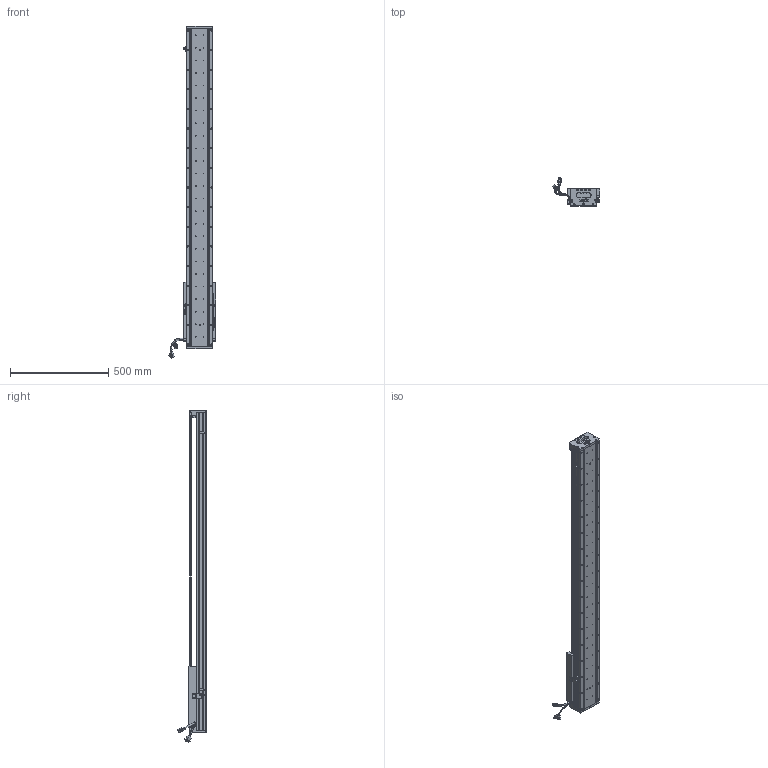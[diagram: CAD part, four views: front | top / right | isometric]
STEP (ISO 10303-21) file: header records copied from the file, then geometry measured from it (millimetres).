
FILE_DESCRIPTION (( 'STEP AP203' ), '1' );
FILE_NAME ('Z4-RY140D-1-L500-B-K.SLDASM_1250.step', '2021-05-17T08:16:07', ( '盈信电脑' ), ( '东莞市道滘镇水果街19号' ), 'SwSTEP 2.0', 'SolidWorks 2016', '' );
FILE_SCHEMA (( 'CONFIG_CONTROL_DESIGN' ));
Length unit declared in the file: millimetre
Products named in the file (36): Z4-RY140-L500直线电机模组底座_1250; 詩湍奻揤裔; SEAL-Part-1; Z-RY140感应器672光电感应片; Z4-RY140圉猾敕臏賑輸(21遴); SEAL; PSLH080_PSLF2; 140雄赽晤鎢ん堤盄; 080黍杅芛假蚾釱21遴; HARNESS; SCALE-Part-1; SCALE-Part-2; SCALE; SCREW-M1.7-1; COVER-Part-1; SCREW-M1.6-3; SCREW-M1.6-1; Z4-RY140D-1-L500-B-K.SLDASM_1250; SCREW-M1.6; 140蚥薯蝶輸; HOLDER0; PBU_SHEET; 140-Z-臏賑輸盄裔(21遴); LABEL; Z-140詩湍傷裔啣; 榋妏寠巭燃_暯_M2_2; SHIELDPLATE; 詩湍狟揤裔; HARNESS-Part-1; SCREW-M1.6-2; 覜茼ん672; SCREW-M1.7; COVER; Z4-RY140-L500詩湍100mm遵_1250; LABEL-Part-1; HARNESS-Part-2
Assembly tree (41 placements, depth 4):
  Z4-RY140D-1-L500-B-K.SLDASM_1250
    Z4-RY140-L500直线电机模组底座_1250
    Z-RY140感应器672光电感应片
    Z4-RY140圉猾敕臏賑輸(21遴)
    覜茼ん672  x3
    Z4-RY140-L500詩湍100mm遵_1250
    PSLH080_PSLF2
      SCALE
        SCALE-Part-1
        SCALE-Part-2
      HARNESS
        HARNESS-Part-1
        HARNESS-Part-2
      LABEL
        LABEL-Part-1
      COVER
        COVER-Part-1
      SEAL
        SEAL-Part-1
      榋妏寠巭燃_暯_M2_2
      SHIELDPLATE
      SCREW-M1.7
      SCREW-M1.7-1
      PBU_SHEET
      SCREW-M1.6
      SCREW-M1.6-1
      SCREW-M1.6-2
      SCREW-M1.6-3
      HOLDER0
    080黍杅芛假蚾釱21遴
    140-Z-臏賑輸盄裔(21遴)
    Z-140詩湍傷裔啣  x2
    詩湍狟揤裔  x2
    詩湍奻揤裔  x2
    140蚥薯蝶輸  x2
    140雄赽晤鎢ん堤盄
Bounding box: 239.83 x 143.88 x 1690.87 mm (x, y, z)
Volume: 5979861.6 mm3; surface area: 1531758.2 mm2
Topology: 36 solids, 36 shells, 3466 faces, 9288 edges, 5885 vertices
Faces by surface type: cylinder 1762, plane 1244, cone 338, torus 69, bspline 53
Entity records: 106012 total; most frequent: CARTESIAN_POINT 28527, ORIENTED_EDGE 15624, DIRECTION 14912, EDGE_CURVE 7812, AXIS2_PLACEMENT_3D 5518, VERTEX_POINT 5053, VECTOR 3876, LINE 3876
